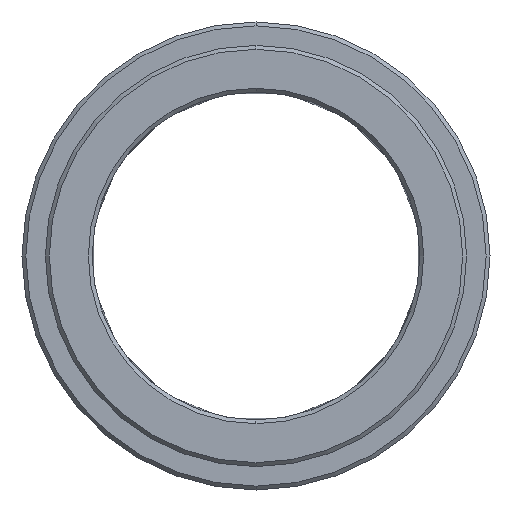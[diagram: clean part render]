
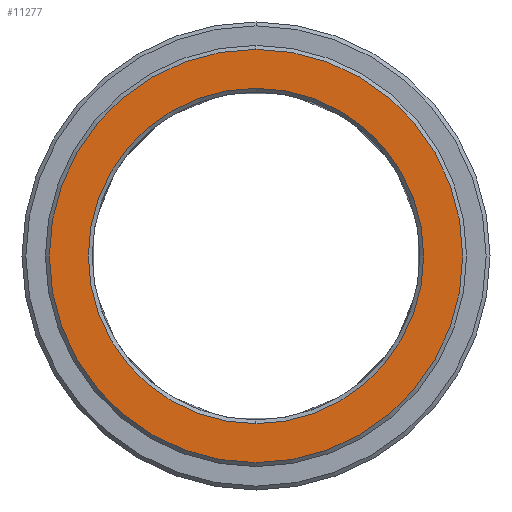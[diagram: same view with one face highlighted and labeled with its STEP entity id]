
A CAD part, left-side view. The second image highlights one B-rep face of the part: STEP entity #11277.
In plain terms, the highlighted planar face has unit normal (-1, 0, 0).
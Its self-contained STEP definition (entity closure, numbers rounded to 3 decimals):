
#7754=CARTESIAN_POINT('',(-10.,0.,
0.));
#7755=DIRECTION('',(1.,0.,0.));
#7756=DIRECTION('',(0.,0.,1.));
#7757=AXIS2_PLACEMENT_3D('',#7754,#7755,#7756);
#7759=CARTESIAN_POINT('',(-10.,0.,
0.));
#7760=DIRECTION('',(1.,0.,0.));
#7761=DIRECTION('',(0.,0.,-1.));
#7762=AXIS2_PLACEMENT_3D('',#7759,#7760,#7761);
#7764=CARTESIAN_POINT('',(-10.,0.,
0.));
#7765=DIRECTION('',(1.,0.,0.));
#7766=DIRECTION('',(0.,0.,1.));
#7767=AXIS2_PLACEMENT_3D('',#7764,#7765,#7766);
#7769=CARTESIAN_POINT('',(-10.,0.,
0.));
#7770=DIRECTION('',(1.,0.,0.));
#7771=DIRECTION('',(0.,0.,-1.));
#7772=AXIS2_PLACEMENT_3D('',#7769,#7770,#7771);
#8222=CARTESIAN_POINT('',(-10.,0.,21.5));
#8223=CARTESIAN_POINT('',(-10.,0.,-21.5));
#8224=VERTEX_POINT('',#8222);
#8225=VERTEX_POINT('',#8223);
#8230=CARTESIAN_POINT('',(-10.,0.,26.5));
#8231=CARTESIAN_POINT('',(-10.,0.,
-26.5));
#8232=VERTEX_POINT('',#8230);
#8233=VERTEX_POINT('',#8231);
#11262=CARTESIAN_POINT('',(-10.,0.,0.));
#11263=DIRECTION('',(1.,0.,0.));
#11264=DIRECTION('',(0.,0.,1.));
#11265=AXIS2_PLACEMENT_3D('',#11262,#11263,#11264);
#11266=PLANE('',#11265);
#11267=ORIENTED_EDGE('',*,*,#11229,.T.);
#11268=ORIENTED_EDGE('',*,*,#11244,.T.);
#11269=EDGE_LOOP('',(#11267,#11268));
#11270=FACE_OUTER_BOUND('',#11269,.F.);
#11272=ORIENTED_EDGE('',*,*,#11271,.F.);
#11274=ORIENTED_EDGE('',*,*,#11273,.F.);
#11275=EDGE_LOOP('',(#11272,#11274));
#11276=FACE_BOUND('',#11275,.F.);
#11277=ADVANCED_FACE('',(#11270,#11276),#11266,.F.);
#7758=CIRCLE('',#7757,26.5);
#7763=CIRCLE('',#7762,26.5);
#7768=CIRCLE('',#7767,21.5);
#7773=CIRCLE('',#7772,21.5);
#11229=EDGE_CURVE('',#8232,#8233,#7758,.T.);
#11244=EDGE_CURVE('',#8233,#8232,#7763,.T.);
#11271=EDGE_CURVE('',#8224,#8225,#7768,.T.);
#11273=EDGE_CURVE('',#8225,#8224,#7773,.T.);
